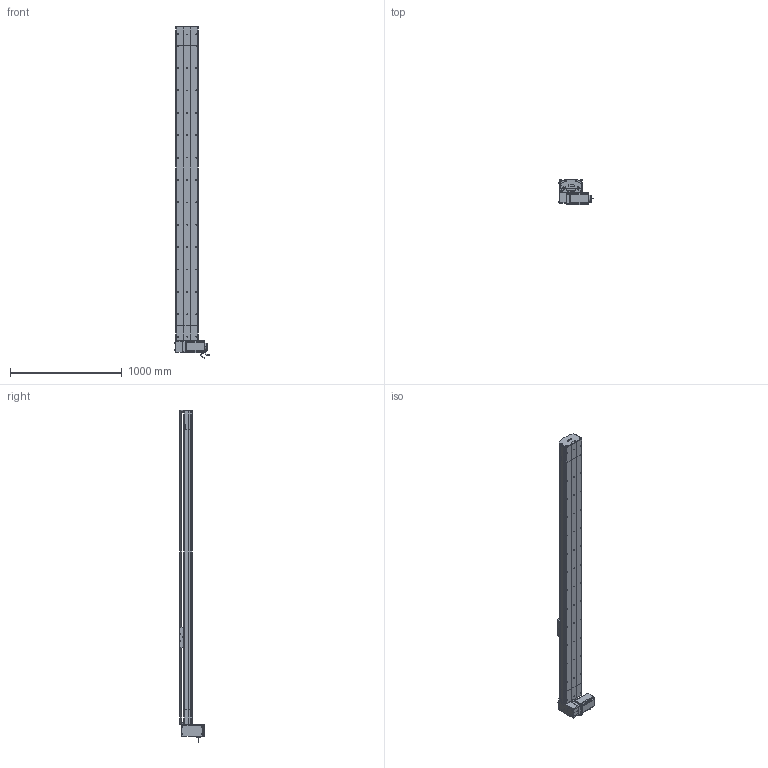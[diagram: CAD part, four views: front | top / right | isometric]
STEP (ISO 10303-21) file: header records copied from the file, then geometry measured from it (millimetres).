
FILE_DESCRIPTION (( 'STEP AP214' ), '1' );
FILE_NAME ('D20 TBH RU S2500.STEP', '2010-07-01T08:08:00', ( 'Conseil Régional Haute-Normandie' ), ( 'Conseil Régional Haute-Normandie' ), 'SwSTEP 2.0', 'SolidWorks 2010', '' );
FILE_SCHEMA (( 'AUTOMOTIVE_DESIGN' ));
Length unit declared in the file: millimetre
Products named in the file (40): Chariot D20B; chariot D20B_Default; D20 TBH RU S2500; corp D20 S2500_Default; Course B L2500_Default; guide D20B; head RU_Default; rail + couroie  D20 S2500; couvercle D20 S2500_Default; couvercle head D20_Default; rail head D20; corpl head D20_Default; cache arbre D20_Default; plaque de  bout head D20B RU_Default; poulie head D20_Default; clavette; Conecteur_Default; Conecteur2_Default; Moteur motionking 110BLDC170A-640x; vis M5 L70_Default; Plaque racord D20LH_Default; codeur 110BLDC170A-630x; corps 110BLDC170A-630x; avant 110BLDC170A-630x; Renvoi RU D20_Default; vis M5 L5_Default; couroie_Default; cache D20_Default; rail tail D20; vis M5 L8 90°_Default; vis M5 L25_Default; vis M5 L12_Default; tete d''axe poulie D20B; poulie tail D20_Default; corpl tail D20 +100_Default; tail D20+100_Default; couvercle tail D20_Default; Couroie tail D20_Default; plaque de  bout tail D20_Default; vis M8 L12_Default
Assembly tree (71 placements, depth 4):
  D20 TBH RU S2500
    head RU_Default
      vis M5 L25_Default  x2
      couvercle head D20_Default
      vis M8 L12_Default  x4
      vis M5 L5_Default  x4
      cache arbre D20_Default
      cache D20_Default  x2
      vis M5 L12_Default  x10
      vis M5 L70_Default  x4
      poulie head D20_Default
      Plaque racord D20LH_Default
      couroie_Default
      rail head D20
      corpl head D20_Default
      Renvoi RU D20_Default
      Moteur motionking 110BLDC170A-640x
        Conecteur_Default
        Conecteur2_Default
        codeur 110BLDC170A-630x
        avant 110BLDC170A-630x
        clavette
        corps 110BLDC170A-630x
      plaque de  bout head D20B RU_Default
    chariot D20B_Default
      vis M5 L12_Default  x4
      guide D20B  x2
      Chariot D20B
    Course B L2500_Default
      couvercle D20 S2500_Default
      corp D20 S2500_Default
      rail + couroie  D20 S2500
    tail D20+100_Default
      vis M5 L12_Default  x4
      rail tail D20
      plaque de  bout tail D20_Default
      vis M5 L8 90°_Default  x2
      tete d''axe poulie D20B
      poulie tail D20_Default
      vis M5 L25_Default  x2
      couvercle tail D20_Default
      Couroie tail D20_Default
      corpl tail D20 +100_Default
Bounding box: 304.2 x 223.2 x 2965 mm (x, y, z)
Volume: 23665593.5 mm3; surface area: 5782613 mm2
Topology: 95 solids, 95 shells, 2833 faces, 7251 edges, 4685 vertices
Faces by surface type: plane 1642, cylinder 867, bspline 136, cone 99, torus 89
Entity records: 91056 total; most frequent: CARTESIAN_POINT 29447, ORIENTED_EDGE 11158, DIRECTION 10492, EDGE_CURVE 5579, VERTEX_POINT 3671, VECTOR 3564, LINE 3564, AXIS2_PLACEMENT_3D 3464
